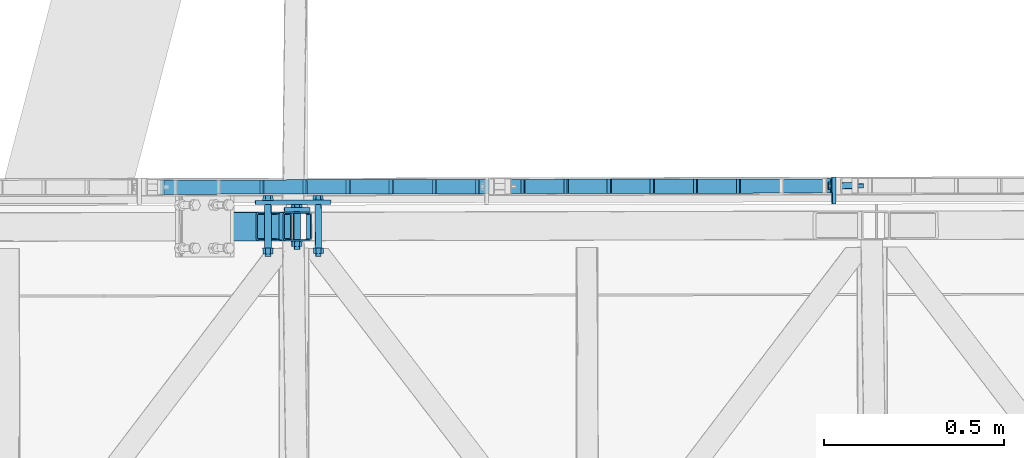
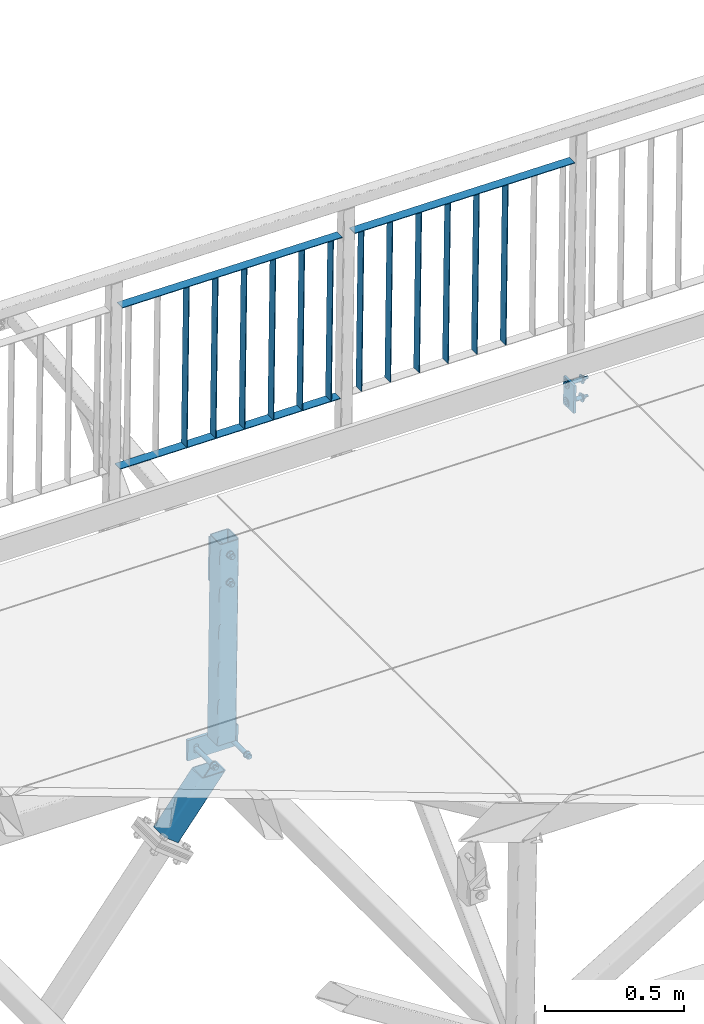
# One storey, part 112 of 169: 20 discrete accessories, 3 mechanical fasteners, 3 elements without a shape of their own.
"""IFC2X3 building model written with IfcOpenShell, lengths in millimetres."""

from ifc_helpers import new_model, si_unit, frame, frame_2d, origin_with_axes, origin_2d_with_axis, place, context, subcontext, project, spatial, polyline, circle_curve, parameter, trimmed, segment, composite_curve, rectangle, hollow_rectangle, circle, outline, extrude, boolean, clip, halfspace, source, transform, mapped, material, type_object, element, aggregate, save


model = new_model("IFC2X3")

# Units and contexts
model_context = context("Model", 3, precision=1e-05, world=origin_with_axes())
body_context = subcontext(model_context, "Body", "Model", "MODEL_VIEW")
ifc_project = project(units=[si_unit("LENGTHUNIT", "METRE", prefix="MILLI"), si_unit("AREAUNIT", "SQUARE_METRE"), si_unit("VOLUMEUNIT", "CUBIC_METRE"), si_unit("MASSUNIT", "GRAM", prefix="KILO"), si_unit("TIMEUNIT", "SECOND"), si_unit("PLANEANGLEUNIT", "RADIAN"), si_unit("SOLIDANGLEUNIT", "STERADIAN"), si_unit("THERMODYNAMICTEMPERATUREUNIT", "DEGREE_CELSIUS"), si_unit("LUMINOUSINTENSITYUNIT", "LUMEN")], contexts=[model_context])

# Site, building, storey
site_placement = place(None, origin_with_axes())
site = spatial("IfcSite", under=ifc_project, at=site_placement, Name="Undefined", CompositionType="ELEMENT")
building_placement = place(site_placement, origin_with_axes())
building = spatial("IfcBuilding", under=site, at=building_placement, Name="Undefined", CompositionType="ELEMENT")
storey_placement = place(building_placement, origin_with_axes())
storey = spatial("IfcBuildingStorey", under=building, at=storey_placement, Name="Undefined", CompositionType="ELEMENT", Elevation=0.0)

# Assembly, discrete accessory
assembly_1_placement = place(storey_placement, origin_with_axes())
assembly_1 = element("IfcElementAssembly", 1, at=assembly_1_placement, inside=storey, Name="Steel Assembly", AssemblyPlace="NOTDEFINED", PredefinedType="RIGID_FRAME")
ifc_material_1 = material(Name="STEEL/S235")
discrete_accessory_type_1 = type_object("IfcDiscreteAccessoryType", Name="BLACHA")
discrete_accessory_1_placement = place(assembly_1_placement, frame((9221.05350484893, 2322.2138730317, 13836.9820282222), z_axis=(0.9999174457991, 0.00186469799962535, -0.0127131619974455), x_axis=(-0.0018648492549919, 0.999998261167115, -4.2996762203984e-08)))
discrete_accessory_1 = element("IfcDiscreteAccessory", 2, at=discrete_accessory_1_placement, type_object=discrete_accessory_type_1, material=ifc_material_1, Name="BLACHA", ObjectType="BL10*120", context=body_context, shape_type="SweptSolid", body=[
    extrude(outline(polyline([(-5.35749222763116e-11, -59.9999999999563), (5.3567816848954e-11, 59.9999999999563), (75.0000002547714, 59.9999999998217), (75.0000002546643, -60.0000000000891), (-5.35749222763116e-11, -59.9999999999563)])), frame((-1.81898926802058e-12, -1.18000176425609e-16, -5.00000000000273), z_axis=(0.0, 0.0, 1.0), x_axis=(1.0, 0.0, 0.0)), (0.0, 0.0, 1.0), 10.0),
])

# Assembly, discrete accessories
assembly_2_placement = place(storey_placement, origin_with_axes())
assembly_2 = element("IfcElementAssembly", 3, at=assembly_2_placement, inside=storey, Name="Steel Assembly", AssemblyPlace="NOTDEFINED", PredefinedType="RIGID_FRAME")
ifc_material_2 = material(Name="STEEL/S355")
discrete_accessory_2_placement = place(assembly_2_placement, frame((7761.40765509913, 2306.49192240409, 13681.9200341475), z_axis=(-0.0018648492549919, 0.999998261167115, -4.2996762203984e-08), x_axis=(-0.999917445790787, -0.00186469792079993, 0.0127131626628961)))
discrete_accessory_2 = element("IfcDiscreteAccessory", 4, at=discrete_accessory_2_placement, type_object=discrete_accessory_type_1, material=ifc_material_2, Name="BLACHA", ObjectType="BL12*190", context=body_context, shape_type="SweptSolid", body=[
    extrude(outline(polyline([(69.9999999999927, -94.99999999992), (8.18545231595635e-11, -95.0), (-8.18545231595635e-11, 95.0000000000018), (69.9999999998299, 95.0000000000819), (69.9999999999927, -94.99999999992)])), frame((-1.81898942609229e-12, -1.81898940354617e-12, -5.99999999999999), z_axis=(0.0, 0.0, 1.0), x_axis=(1.0, 0.0, 0.0)), (0.0, 0.0, 1.0), 12.0),
])
discrete_accessory_3_placement = place(assembly_2_placement, frame((7820.86462321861, 2326.6027996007, 12855.183188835), z_axis=(-0.0018648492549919, 0.999998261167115, -4.2996762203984e-08), x_axis=(-0.999917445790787, -0.00186469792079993, 0.0127131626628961)))
discrete_accessory_3 = element("IfcDiscreteAccessory", 5, at=discrete_accessory_3_placement, type_object=discrete_accessory_type_1, material=ifc_material_2, Name="BLACHA", ObjectType="BL12*90", context=body_context, shape_type="SweptSolid", body=[
    extrude(outline(polyline([(209.999999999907, -44.999999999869), (0.0, -45.0000000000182), (0.0, 45.0000000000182), (209.999999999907, 45.0000000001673), (209.999999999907, -44.999999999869)])), frame((-1.81898942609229e-12, -1.81898940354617e-12, -5.99999999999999), z_axis=(0.0, 0.0, 1.0), x_axis=(1.0, 0.0, 0.0)), (0.0, 0.0, 1.0), 12.0),
])

# Discrete accessory
discrete_accessory_type_2 = type_object("IfcDiscreteAccessoryType", Name="BEAM")
discrete_accessory_4_placement = place(assembly_1_placement, frame((7474.47406711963, 2258.95666222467, 12558.5708792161), z_axis=(-0.784458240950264, -0.00146288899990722, 0.620179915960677), x_axis=(0.620178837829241, 0.00115653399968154, 0.784459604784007)))
discrete_accessory_4 = element("IfcDiscreteAccessory", 6, at=discrete_accessory_4_placement, type_object=discrete_accessory_type_2, material=ifc_material_2, Name="BEAM", ObjectType="K80/4", context=body_context, shape_type="Clipping", body=[
    clip(clip(extrude(hollow_rectangle(XDim=80.0, YDim=80.0, WallThickness=4.0, InnerFilletRadius=4.0, OuterFilletRadius=8.0, at=origin_2d_with_axis()), frame((375.19833107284, -7.01217308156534e-17, 9.09494701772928e-13), z_axis=(-1.0, -3.46944695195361e-18, -1.38777878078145e-17), x_axis=(1.73472347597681e-18, -1.0, 0.0)), (0.0, 0.0, 1.0), 358.7), halfspace(frame((-278.391412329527, -2.59894886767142e-06, 755.671245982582), z_axis=(-0.792280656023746, -4.31759030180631e-08, -0.610156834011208), x_axis=(1.73472347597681e-18, -1.0, 0.0)), True)), halfspace(frame((16.5000003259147, 3.71528585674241e-10, -1000.00000000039), z_axis=(1.0, 0.0, 0.0), x_axis=(1.73472347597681e-18, -1.0, 0.0)), True)),
])

discrete_accessory_5_placement = place(assembly_1_placement, frame((7715.9921345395, 2259.40711202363, 12856.0381884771), z_axis=(-0.999917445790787, -0.00186469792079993, 0.0127131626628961), x_axis=(0.012713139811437, 2.3750999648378e-05, 0.999919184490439)))
discrete_accessory_5 = element("IfcDiscreteAccessory", 7, at=discrete_accessory_5_placement, type_object=discrete_accessory_type_2, material=ifc_material_2, Name="BEAM", ObjectType="K80/4", context=body_context, shape_type="Clipping", body=[
    clip(clip(extrude(hollow_rectangle(XDim=80.0, YDim=80.0, WallThickness=4.0, InnerFilletRadius=4.0, OuterFilletRadius=8.0, at=origin_2d_with_axis()), frame((940.000112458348, 4.54747487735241e-13, 0.0), z_axis=(-1.0, -3.46944695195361e-18, -1.38777878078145e-17), x_axis=(1.73472347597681e-18, -1.0, 0.0)), (0.0, 0.0, 1.0), 880.0), halfspace(frame((940.000112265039, -6.72889655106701e-09, 999.999999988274), z_axis=(-1.0, -3.46944695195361e-18, -1.38777878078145e-17), x_axis=(1.73472347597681e-18, -1.0, 0.0)), True)), halfspace(frame((60.0001122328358, 8.14088707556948e-09, 1000.00000001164), z_axis=(1.0, 0.0, 0.0), x_axis=(0.0, 1.0, 0.0)), True)),
])

aggregate(assembly_1, [discrete_accessory_1, discrete_accessory_4, discrete_accessory_5])

# Assembly, discrete accessories, mechanical fastener
assembly_3_placement = place(storey_placement, origin_with_axes())
assembly_3 = element("IfcElementAssembly", 8, at=assembly_3_placement, inside=storey, Name="Steel Assembly", AssemblyPlace="NOTDEFINED", PredefinedType="RIGID_FRAME")
discrete_accessory_type_3 = type_object("IfcDiscreteAccessoryType", Name="PORĘCZ")
discrete_accessory_6_placement = place(assembly_3_placement, frame((7330.63231506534, 2368.68864560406, 14876.0980896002), z_axis=(-0.012713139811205, -2.37511238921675e-05, -0.999919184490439), x_axis=(0.9999174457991, 0.00186469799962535, -0.0127131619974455)))
discrete_accessory_6 = element("IfcDiscreteAccessory", 9, at=discrete_accessory_6_placement, type_object=discrete_accessory_type_3, material=ifc_material_1, Name="PORĘCZ", ObjectType="BL40*3", context=body_context, shape_type="CSG", body=[
    boolean("DIFFERENCE", boolean("DIFFERENCE", extrude(outline(polyline([(25.4999999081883, 20.0000000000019), (941.194458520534, 20.0000000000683), (941.194458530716, -19.9999999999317), (25.499999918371, -19.9999999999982), (25.4999999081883, 20.0000000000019)])), frame((1.81898940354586e-12, -1.77635442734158e-15, -1.50000000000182), z_axis=(0.0, 0.0, 1.0), x_axis=(1.0, 0.0, 0.0)), (0.0, 0.0, 1.0), 3.0), extrude(rectangle(XDim=51.0, YDim=51.0, at=origin_2d_with_axis()), frame((-5.94487782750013e-08, -4.65977194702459e-09, -139.999999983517), z_axis=(0.0, 0.0, 1.0), x_axis=(1.0, 0.0, 0.0)), (0.0, 0.0, 1.0), 280.0)), extrude(rectangle(XDim=51.0, YDim=51.0, at=origin_2d_with_axis()), frame((966.694458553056, -6.96000839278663e-09, -139.999999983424), z_axis=(0.0, 0.0, 1.0), x_axis=(1.0, 0.0, 0.0)), (0.0, 0.0, 1.0), 280.0)),
])
discrete_accessory_7_placement = place(assembly_3_placement, frame((8297.24696898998, 2370.49123882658, 14863.8083463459), z_axis=(-0.012713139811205, -2.37511238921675e-05, -0.999919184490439), x_axis=(0.9999174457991, 0.00186469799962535, -0.0127131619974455)))
discrete_accessory_7 = element("IfcDiscreteAccessory", 10, at=discrete_accessory_7_placement, type_object=discrete_accessory_type_3, material=ifc_material_1, Name="PORĘCZ", ObjectType="BL40*3", context=body_context, shape_type="CSG", body=[
    boolean("DIFFERENCE", boolean("DIFFERENCE", extrude(outline(polyline([(25.4999999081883, 20.0000000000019), (941.194458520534, 20.0000000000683), (941.194458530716, -19.9999999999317), (25.499999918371, -19.9999999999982), (25.4999999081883, 20.0000000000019)])), frame((1.81898940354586e-12, -1.77635442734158e-15, -1.50000000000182), z_axis=(0.0, 0.0, 1.0), x_axis=(1.0, 0.0, 0.0)), (0.0, 0.0, 1.0), 3.0), extrude(rectangle(XDim=51.0, YDim=51.0, at=origin_2d_with_axis()), frame((-5.94487782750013e-08, -4.65977194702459e-09, -139.999999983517), z_axis=(0.0, 0.0, 1.0), x_axis=(1.0, 0.0, 0.0)), (0.0, 0.0, 1.0), 280.0)), extrude(rectangle(XDim=51.0, YDim=51.0, at=origin_2d_with_axis()), frame((966.694458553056, -6.96000839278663e-09, -139.999999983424), z_axis=(0.0, 0.0, 1.0), x_axis=(1.0, 0.0, 0.0)), (0.0, 0.0, 1.0), 280.0)),
])
discrete_accessory_8_placement = place(assembly_3_placement, frame((7635.79790693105, 2369.2577404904, 15017.2298688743), z_axis=(0.00186484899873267, -0.999998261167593, 4.28757666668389e-08), x_axis=(-0.012713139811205, -2.37511238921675e-05, -0.999919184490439)))
discrete_accessory_8 = element("IfcDiscreteAccessory", 11, at=discrete_accessory_8_placement, type_object=discrete_accessory_type_3, material=ifc_material_1, Name="PORĘCZ", ObjectType="BL40*3", context=body_context, shape_type="Clipping", body=[
    clip(clip(extrude(rectangle(XDim=3.0, YDim=40.0, at=origin_2d_with_axis()), frame((848.500000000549, 1.47191286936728e-15, -8.89750592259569e-16), z_axis=(-1.0, -3.46944695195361e-18, -1.38777878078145e-17), x_axis=(1.73472347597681e-18, -1.0, 0.0)), (0.0, 0.0, 1.0), 702.0), halfspace(frame((848.499999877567, 4.522007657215e-09, 1000.00000000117), z_axis=(-1.0, -3.46944695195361e-18, -1.38777878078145e-17), x_axis=(1.73472347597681e-18, -1.0, 0.0)), True)), halfspace(frame((146.499999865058, 4.97311702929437e-09, 1000.00000000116), z_axis=(1.0, 0.0, 0.0), x_axis=(0.0, 1.0, 0.0)), True)),
])
discrete_accessory_9_placement = place(assembly_3_placement, frame((7755.78800042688, 2369.48150425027, 15015.7042894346), z_axis=(0.00186484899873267, -0.999998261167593, 4.28757666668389e-08), x_axis=(-0.012713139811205, -2.37511238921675e-05, -0.999919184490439)))
discrete_accessory_9 = element("IfcDiscreteAccessory", 12, at=discrete_accessory_9_placement, type_object=discrete_accessory_type_3, material=ifc_material_1, Name="PORĘCZ", ObjectType="BL40*3", context=body_context, shape_type="Clipping", body=[
    clip(clip(extrude(rectangle(XDim=3.0, YDim=40.0, at=origin_2d_with_axis()), frame((848.500000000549, 1.47191286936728e-15, -8.89750592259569e-16), z_axis=(-1.0, -3.46944695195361e-18, -1.38777878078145e-17), x_axis=(1.73472347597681e-18, -1.0, 0.0)), (0.0, 0.0, 1.0), 702.0), halfspace(frame((848.499999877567, 4.522007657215e-09, 1000.00000000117), z_axis=(-1.0, -3.46944695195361e-18, -1.38777878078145e-17), x_axis=(1.73472347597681e-18, -1.0, 0.0)), True)), halfspace(frame((146.499999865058, 4.97311702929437e-09, 1000.00000000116), z_axis=(1.0, 0.0, 0.0), x_axis=(0.0, 1.0, 0.0)), True)),
])
discrete_accessory_10_placement = place(assembly_3_placement, frame((7875.77809392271, 2369.70526801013, 15014.178709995), z_axis=(0.00186484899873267, -0.999998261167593, 4.28757666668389e-08), x_axis=(-0.012713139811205, -2.37511238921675e-05, -0.999919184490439)))
discrete_accessory_10 = element("IfcDiscreteAccessory", 13, at=discrete_accessory_10_placement, type_object=discrete_accessory_type_3, material=ifc_material_1, Name="PORĘCZ", ObjectType="BL40*3", context=body_context, shape_type="Clipping", body=[
    clip(clip(extrude(rectangle(XDim=3.0, YDim=40.0, at=origin_2d_with_axis()), frame((848.500000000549, 1.47191286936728e-15, -8.89750592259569e-16), z_axis=(-1.0, -3.46944695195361e-18, -1.38777878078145e-17), x_axis=(1.73472347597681e-18, -1.0, 0.0)), (0.0, 0.0, 1.0), 702.0), halfspace(frame((848.499999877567, 4.522007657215e-09, 1000.00000000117), z_axis=(-1.0, -3.46944695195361e-18, -1.38777878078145e-17), x_axis=(1.73472347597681e-18, -1.0, 0.0)), True)), halfspace(frame((146.499999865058, 4.97311702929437e-09, 1000.00000000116), z_axis=(1.0, 0.0, 0.0), x_axis=(0.0, 1.0, 0.0)), True)),
])
discrete_accessory_11_placement = place(assembly_3_placement, frame((7995.76818741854, 2369.92903177, 15012.6531305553), z_axis=(0.00186484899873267, -0.999998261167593, 4.28757666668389e-08), x_axis=(-0.012713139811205, -2.37511238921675e-05, -0.999919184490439)))
discrete_accessory_11 = element("IfcDiscreteAccessory", 14, at=discrete_accessory_11_placement, type_object=discrete_accessory_type_3, material=ifc_material_1, Name="PORĘCZ", ObjectType="BL40*3", context=body_context, shape_type="Clipping", body=[
    clip(clip(extrude(rectangle(XDim=3.0, YDim=40.0, at=origin_2d_with_axis()), frame((848.500000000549, 1.47191286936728e-15, -8.89750592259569e-16), z_axis=(-1.0, -3.46944695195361e-18, -1.38777878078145e-17), x_axis=(1.73472347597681e-18, -1.0, 0.0)), (0.0, 0.0, 1.0), 702.0), halfspace(frame((848.499999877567, 4.522007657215e-09, 1000.00000000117), z_axis=(-1.0, -3.46944695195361e-18, -1.38777878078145e-17), x_axis=(1.73472347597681e-18, -1.0, 0.0)), True)), halfspace(frame((146.499999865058, 4.97311702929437e-09, 1000.00000000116), z_axis=(1.0, 0.0, 0.0), x_axis=(0.0, 1.0, 0.0)), True)),
])
discrete_accessory_12_placement = place(assembly_3_placement, frame((8115.75828091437, 2370.15279552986, 15011.1275511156), z_axis=(0.00186484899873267, -0.999998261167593, 4.28757666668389e-08), x_axis=(-0.012713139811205, -2.37511238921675e-05, -0.999919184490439)))
discrete_accessory_12 = element("IfcDiscreteAccessory", 15, at=discrete_accessory_12_placement, type_object=discrete_accessory_type_3, material=ifc_material_1, Name="PORĘCZ", ObjectType="BL40*3", context=body_context, shape_type="Clipping", body=[
    clip(clip(extrude(rectangle(XDim=3.0, YDim=40.0, at=origin_2d_with_axis()), frame((848.500000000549, 1.47191286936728e-15, -8.89750592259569e-16), z_axis=(-1.0, -3.46944695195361e-18, -1.38777878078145e-17), x_axis=(1.73472347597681e-18, -1.0, 0.0)), (0.0, 0.0, 1.0), 702.0), halfspace(frame((848.499999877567, 4.522007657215e-09, 1000.00000000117), z_axis=(-1.0, -3.46944695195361e-18, -1.38777878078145e-17), x_axis=(1.73472347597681e-18, -1.0, 0.0)), True)), halfspace(frame((146.499999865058, 4.97311702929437e-09, 1000.00000000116), z_axis=(1.0, 0.0, 0.0), x_axis=(0.0, 1.0, 0.0)), True)),
])
discrete_accessory_13_placement = place(assembly_3_placement, frame((8235.7483744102, 2370.37655928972, 15009.6019716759), z_axis=(0.00186484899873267, -0.999998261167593, 4.28757666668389e-08), x_axis=(-0.012713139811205, -2.37511238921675e-05, -0.999919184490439)))
discrete_accessory_13 = element("IfcDiscreteAccessory", 16, at=discrete_accessory_13_placement, type_object=discrete_accessory_type_3, material=ifc_material_1, Name="PORĘCZ", ObjectType="BL40*3", context=body_context, shape_type="Clipping", body=[
    clip(clip(extrude(rectangle(XDim=3.0, YDim=40.0, at=origin_2d_with_axis()), frame((848.500000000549, 1.47191286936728e-15, -8.89750592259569e-16), z_axis=(-1.0, -3.46944695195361e-18, -1.38777878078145e-17), x_axis=(1.73472347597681e-18, -1.0, 0.0)), (0.0, 0.0, 1.0), 702.0), halfspace(frame((848.499999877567, 4.522007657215e-09, 1000.00000000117), z_axis=(-1.0, -3.46944695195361e-18, -1.38777878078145e-17), x_axis=(1.73472347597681e-18, -1.0, 0.0)), True)), halfspace(frame((146.499999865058, 4.97311702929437e-09, 1000.00000000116), z_axis=(1.0, 0.0, 0.0), x_axis=(0.0, 1.0, 0.0)), True)),
])
discrete_accessory_14_placement = place(assembly_3_placement, frame((8362.43237386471, 2370.61280619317, 15007.9912844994), z_axis=(0.00186484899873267, -0.999998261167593, 4.28757666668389e-08), x_axis=(-0.012713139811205, -2.37511238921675e-05, -0.999919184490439)))
discrete_accessory_14 = element("IfcDiscreteAccessory", 17, at=discrete_accessory_14_placement, type_object=discrete_accessory_type_3, material=ifc_material_1, Name="PORĘCZ", ObjectType="BL40*3", context=body_context, shape_type="Clipping", body=[
    clip(clip(extrude(rectangle(XDim=3.0, YDim=40.0, at=origin_2d_with_axis()), frame((848.500000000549, 1.47191286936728e-15, -8.89750592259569e-16), z_axis=(-1.0, -3.46944695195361e-18, -1.38777878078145e-17), x_axis=(1.73472347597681e-18, -1.0, 0.0)), (0.0, 0.0, 1.0), 702.0), halfspace(frame((848.499999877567, 4.522007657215e-09, 1000.00000000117), z_axis=(-1.0, -3.46944695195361e-18, -1.38777878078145e-17), x_axis=(1.73472347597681e-18, -1.0, 0.0)), True)), halfspace(frame((146.499999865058, 4.97311702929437e-09, 1000.00000000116), z_axis=(1.0, 0.0, 0.0), x_axis=(0.0, 1.0, 0.0)), True)),
])
discrete_accessory_15_placement = place(assembly_3_placement, frame((8482.42246736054, 2370.83656995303, 15006.4657050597), z_axis=(0.00186484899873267, -0.999998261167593, 4.28757666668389e-08), x_axis=(-0.012713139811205, -2.37511238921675e-05, -0.999919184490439)))
discrete_accessory_15 = element("IfcDiscreteAccessory", 18, at=discrete_accessory_15_placement, type_object=discrete_accessory_type_3, material=ifc_material_1, Name="PORĘCZ", ObjectType="BL40*3", context=body_context, shape_type="Clipping", body=[
    clip(clip(extrude(rectangle(XDim=3.0, YDim=40.0, at=origin_2d_with_axis()), frame((848.500000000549, 1.47191286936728e-15, -8.89750592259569e-16), z_axis=(-1.0, -3.46944695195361e-18, -1.38777878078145e-17), x_axis=(1.73472347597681e-18, -1.0, 0.0)), (0.0, 0.0, 1.0), 702.0), halfspace(frame((848.499999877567, 4.522007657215e-09, 1000.00000000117), z_axis=(-1.0, -3.46944695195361e-18, -1.38777878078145e-17), x_axis=(1.73472347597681e-18, -1.0, 0.0)), True)), halfspace(frame((146.499999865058, 4.97311702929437e-09, 1000.00000000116), z_axis=(1.0, 0.0, 0.0), x_axis=(0.0, 1.0, 0.0)), True)),
])
discrete_accessory_16_placement = place(assembly_3_placement, frame((8602.41256085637, 2371.06033371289, 15004.94012562), z_axis=(0.00186484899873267, -0.999998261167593, 4.28757666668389e-08), x_axis=(-0.012713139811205, -2.37511238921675e-05, -0.999919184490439)))
discrete_accessory_16 = element("IfcDiscreteAccessory", 19, at=discrete_accessory_16_placement, type_object=discrete_accessory_type_3, material=ifc_material_1, Name="PORĘCZ", ObjectType="BL40*3", context=body_context, shape_type="Clipping", body=[
    clip(clip(extrude(rectangle(XDim=3.0, YDim=40.0, at=origin_2d_with_axis()), frame((848.500000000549, 1.47191286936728e-15, -8.89750592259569e-16), z_axis=(-1.0, -3.46944695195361e-18, -1.38777878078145e-17), x_axis=(1.73472347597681e-18, -1.0, 0.0)), (0.0, 0.0, 1.0), 702.0), halfspace(frame((848.499999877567, 4.522007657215e-09, 1000.00000000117), z_axis=(-1.0, -3.46944695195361e-18, -1.38777878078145e-17), x_axis=(1.73472347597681e-18, -1.0, 0.0)), True)), halfspace(frame((146.499999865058, 4.97311702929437e-09, 1000.00000000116), z_axis=(1.0, 0.0, 0.0), x_axis=(0.0, 1.0, 0.0)), True)),
])
discrete_accessory_17_placement = place(assembly_3_placement, frame((8722.4026543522, 2371.28409747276, 15003.4145461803), z_axis=(0.00186484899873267, -0.999998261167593, 4.28757666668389e-08), x_axis=(-0.012713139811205, -2.37511238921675e-05, -0.999919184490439)))
discrete_accessory_17 = element("IfcDiscreteAccessory", 20, at=discrete_accessory_17_placement, type_object=discrete_accessory_type_3, material=ifc_material_1, Name="PORĘCZ", ObjectType="BL40*3", context=body_context, shape_type="Clipping", body=[
    clip(clip(extrude(rectangle(XDim=3.0, YDim=40.0, at=origin_2d_with_axis()), frame((848.500000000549, 1.47191286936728e-15, -8.89750592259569e-16), z_axis=(-1.0, -3.46944695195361e-18, -1.38777878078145e-17), x_axis=(1.73472347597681e-18, -1.0, 0.0)), (0.0, 0.0, 1.0), 702.0), halfspace(frame((848.499999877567, 4.522007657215e-09, 1000.00000000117), z_axis=(-1.0, -3.46944695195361e-18, -1.38777878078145e-17), x_axis=(1.73472347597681e-18, -1.0, 0.0)), True)), halfspace(frame((146.499999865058, 4.97311702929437e-09, 1000.00000000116), z_axis=(1.0, 0.0, 0.0), x_axis=(0.0, 1.0, 0.0)), True)),
])
discrete_accessory_18_placement = place(assembly_3_placement, frame((8842.39274784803, 2371.50786123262, 15001.8889667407), z_axis=(0.00186484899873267, -0.999998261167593, 4.28757666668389e-08), x_axis=(-0.012713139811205, -2.37511238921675e-05, -0.999919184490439)))
discrete_accessory_18 = element("IfcDiscreteAccessory", 21, at=discrete_accessory_18_placement, type_object=discrete_accessory_type_3, material=ifc_material_1, Name="PORĘCZ", ObjectType="BL40*3", context=body_context, shape_type="Clipping", body=[
    clip(clip(extrude(rectangle(XDim=3.0, YDim=40.0, at=origin_2d_with_axis()), frame((848.500000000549, 1.47191286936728e-15, -8.89750592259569e-16), z_axis=(-1.0, -3.46944695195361e-18, -1.38777878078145e-17), x_axis=(1.73472347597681e-18, -1.0, 0.0)), (0.0, 0.0, 1.0), 702.0), halfspace(frame((848.499999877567, 4.522007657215e-09, 1000.00000000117), z_axis=(-1.0, -3.46944695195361e-18, -1.38777878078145e-17), x_axis=(1.73472347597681e-18, -1.0, 0.0)), True)), halfspace(frame((146.499999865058, 4.97311702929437e-09, 1000.00000000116), z_axis=(1.0, 0.0, 0.0), x_axis=(0.0, 1.0, 0.0)), True)),
])
discrete_accessory_19_placement = place(assembly_3_placement, frame((8962.38284134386, 2371.73162499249, 15000.363387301), z_axis=(0.00186484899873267, -0.999998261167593, 4.28757666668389e-08), x_axis=(-0.012713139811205, -2.37511238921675e-05, -0.999919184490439)))
discrete_accessory_19 = element("IfcDiscreteAccessory", 22, at=discrete_accessory_19_placement, type_object=discrete_accessory_type_3, material=ifc_material_1, Name="PORĘCZ", ObjectType="BL40*3", context=body_context, shape_type="Clipping", body=[
    clip(clip(extrude(rectangle(XDim=3.0, YDim=40.0, at=origin_2d_with_axis()), frame((848.500000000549, 1.47191286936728e-15, -8.89750592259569e-16), z_axis=(-1.0, -3.46944695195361e-18, -1.38777878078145e-17), x_axis=(1.73472347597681e-18, -1.0, 0.0)), (0.0, 0.0, 1.0), 702.0), halfspace(frame((848.499999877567, 4.522007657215e-09, 1000.00000000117), z_axis=(-1.0, -3.46944695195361e-18, -1.38777878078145e-17), x_axis=(1.73472347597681e-18, -1.0, 0.0)), True)), halfspace(frame((146.499999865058, 4.97311702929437e-09, 1000.00000000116), z_axis=(1.0, 0.0, 0.0), x_axis=(0.0, 1.0, 0.0)), True)),
])
discrete_accessory_20_placement = place(assembly_3_placement, frame((7321.66955149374, 2368.67190106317, 14171.1550645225), z_axis=(-0.012713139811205, -2.37511238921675e-05, -0.999919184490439), x_axis=(0.9999174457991, 0.00186469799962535, -0.0127131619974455)))
discrete_accessory_20 = element("IfcDiscreteAccessory", 23, at=discrete_accessory_20_placement, type_object=discrete_accessory_type_3, material=ifc_material_1, Name="PORĘCZ", ObjectType="BL40*3", context=body_context, shape_type="CSG", body=[
    boolean("DIFFERENCE", boolean("DIFFERENCE", extrude(outline(polyline([(25.4999999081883, 20.0000000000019), (941.194458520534, 20.0000000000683), (941.194458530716, -19.9999999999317), (25.499999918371, -19.9999999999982), (25.4999999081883, 20.0000000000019)])), frame((1.81898940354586e-12, -1.77635442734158e-15, -1.50000000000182), z_axis=(0.0, 0.0, 1.0), x_axis=(1.0, 0.0, 0.0)), (0.0, 0.0, 1.0), 3.0), extrude(rectangle(XDim=51.0, YDim=51.0, at=origin_2d_with_axis()), frame((-5.94487782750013e-08, -4.65977194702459e-09, -139.999999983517), z_axis=(0.0, 0.0, 1.0), x_axis=(1.0, 0.0, 0.0)), (0.0, 0.0, 1.0), 280.0)), extrude(rectangle(XDim=51.0, YDim=51.0, at=origin_2d_with_axis()), frame((966.694458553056, -6.96000839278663e-09, -139.999999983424), z_axis=(0.0, 0.0, 1.0), x_axis=(1.0, 0.0, 0.0)), (0.0, 0.0, 1.0), 280.0)),
])
ifc_material_3 = material(Name="Undefined")
discrete_accessory_type_4 = type_object("IfcDiscreteAccessoryType", Name="Bolt assembly")
shared_shape_1 = source(origin_with_axes(), body_context, "Body", "SweptSolid", [
    extrude(circle(Radius=9.0, at=origin_2d_with_axis()), frame((0.0, -4.90000000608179, 0.0), z_axis=(0.0, 1.0, 0.0), x_axis=(1.0, 0.0, 0.0)), (0.0, 0.0, 1.0), 10.0),
    extrude(circle(Radius=9.0, at=origin_2d_with_axis()), frame((0.0, 4.89999999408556, 0.0), z_axis=(0.0, 1.0, 0.0), x_axis=(1.0, 0.0, 0.0)), (0.0, 0.0, 1.0), 50.1),
    extrude(outline(polyline([(10.39230484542, 0.0), (5.19615242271, 9.00000000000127), (-5.19615242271, 9.00000000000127), (-10.39230484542, 0.0), (-5.19615242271, -9.00000000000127), (5.19615242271, -9.00000000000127), (10.39230484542, 0.0)])), frame((0.0, -15.5000000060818, 0.0), z_axis=(0.0, 1.0, 0.0), x_axis=(1.0, 0.0, 0.0)), (0.0, 0.0, 1.0), 7.5),
    extrude(circle(Radius=6.0, at=origin_2d_with_axis()), frame((0.0, -8.00000000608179, 0.0), z_axis=(0.0, 1.0, 0.0), x_axis=(1.0, 0.0, 0.0)), (0.0, 0.0, 1.0), 90.0),
    extrude(circle(Radius=18.5, at=origin_2d_with_axis()), frame((0.0, -8.00000000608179, 0.0), z_axis=(0.0, 1.0, 0.0), x_axis=(1.0, 0.0, 0.0)), (0.0, 0.0, 1.0), 3.0),
    extrude(circle(Radius=18.5, at=origin_2d_with_axis()), frame((0.0, 54.9999999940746, 0.0), z_axis=(0.0, 1.0, 0.0), x_axis=(1.0, 0.0, 0.0)), (0.0, 0.0, 1.0), 3.0),
    extrude(outline(polyline([(10.96965511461, 0.0), (5.484827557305, 9.50000000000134), (-5.484827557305, 9.50000000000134), (-10.96965511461, 0.0), (-5.484827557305, -9.50000000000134), (5.484827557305, -9.50000000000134), (10.96965511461, 0.0)])), frame((0.0, 57.9999999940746, 0.0), z_axis=(0.0, 1.0, 0.0), x_axis=(1.0, 0.0, 0.0)), (0.0, 0.0, 1.0), 10.0),
])
mechanical_fastener_1_placement = place(assembly_3_placement, frame((9220.96661897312, 2372.21379576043, 13837.4819856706), z_axis=(0.012712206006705, 0.000523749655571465, 0.999919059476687), x_axis=(0.00187120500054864, -0.999998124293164, 0.00050000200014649)))
mechanical_fastener_1 = element("IfcMechanicalFastener", 24, at=mechanical_fastener_1_placement, type_object=discrete_accessory_type_4, material=ifc_material_3, Name="Bolt assembly", NominalDiameter=12.0, NominalLength=90.0, context=body_context, shape_type="MappedRepresentation", body=[
    mapped(shared_shape_1, transform((-1.15463194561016e-14, 5.45696821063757e-11, -39.9999999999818))),
    mapped(shared_shape_1, transform((8.88178419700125e-15, -5.54791768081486e-11, 39.99999999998))),
])
aggregate(assembly_3, [mechanical_fastener_1, discrete_accessory_6, discrete_accessory_7, discrete_accessory_8, discrete_accessory_9, discrete_accessory_10, discrete_accessory_11, discrete_accessory_12, discrete_accessory_13, discrete_accessory_14, discrete_accessory_15, discrete_accessory_16, discrete_accessory_17, discrete_accessory_18, discrete_accessory_19, discrete_accessory_20])

# Mechanical fastener
shared_shape_2 = source(origin_with_axes(), body_context, "Body", "SweptSolid", [
    extrude(circle(Radius=9.5, at=origin_2d_with_axis()), frame((0.0, 4.39999998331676, 0.0), z_axis=(0.0, 1.0, 0.0), x_axis=(1.0, 0.0, 0.0)), (0.0, 0.0, 1.0), 80.1),
    extrude(outline(composite_curve([segment(polyline([(9.5, 10.0), (9.5, -10.0)]), True, "CONTINUOUS"), segment(trimmed(circle_curve(frame_2d((0.0, -10.0), x_axis=(1.0, 0.0)), 9.5), [parameter(0.0)], [parameter(3.14159265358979)], False, "PARAMETER"), True, "CONTINUOUS"), segment(polyline([(-9.5, -10.0), (-9.5, 10.0)]), True, "CONTINUOUS"), segment(trimmed(circle_curve(frame_2d((0.0, 10.0), x_axis=(-1.0, 0.0)), 9.5), [parameter(0.0)], [parameter(3.14159265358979)], False, "PARAMETER"), True, "DISCONTINUOUS")], self_intersect=False)), frame((0.0, -8.39999975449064, 0.0), z_axis=(0.0, 1.0, 0.0), x_axis=(1.0, 0.0, 0.0)), (0.0, 0.0, 1.0), 12.0),
    extrude(outline(polyline([(13.85640646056, 0.0), (6.92820323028, 12.0000000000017), (-6.92820323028, 12.0000000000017), (-13.85640646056, 0.0), (-6.92820323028, -12.0000000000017), (6.92820323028, -12.0000000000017), (13.85640646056, 0.0)])), frame((0.0, -21.4999999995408, 0.0), z_axis=(0.0, 1.0, 0.0), x_axis=(1.0, 0.0, 0.0)), (0.0, 0.0, 1.0), 10.0),
    extrude(circle(Radius=8.0, at=origin_2d_with_axis()), frame((0.0, -11.4999999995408, 0.0), z_axis=(0.0, 1.0, 0.0), x_axis=(1.0, 0.0, 0.0)), (0.0, 0.0, 1.0), 120.0),
    extrude(circle(Radius=15.0, at=origin_2d_with_axis()), frame((0.0, -11.4999999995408, 0.0), z_axis=(0.0, 1.0, 0.0), x_axis=(1.0, 0.0, 0.0)), (0.0, 0.0, 1.0), 3.0),
    extrude(circle(Radius=15.0, at=origin_2d_with_axis()), frame((0.0, 84.4999999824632, 0.0), z_axis=(0.0, 1.0, 0.0), x_axis=(1.0, 0.0, 0.0)), (0.0, 0.0, 1.0), 3.0),
    extrude(outline(polyline([(13.85640646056, 0.0), (6.92820323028, 12.0000000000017), (-6.92820323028, 12.0000000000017), (-13.85640646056, 0.0), (-6.92820323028, -12.0000000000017), (6.92820323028, -12.0000000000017), (13.85640646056, 0.0)])), frame((0.0, 87.4999999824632, 0.0), z_axis=(0.0, 1.0, 0.0), x_axis=(1.0, 0.0, 0.0)), (0.0, 0.0, 1.0), 13.0),
])
mechanical_fastener_2_placement = place(assembly_2_placement, frame((7726.41520662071, 2303.92666232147, 13682.3649949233), z_axis=(-0.012713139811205, -2.37511238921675e-05, -0.999919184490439), x_axis=(0.9999174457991, 0.00186469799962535, -0.0127131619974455)))
mechanical_fastener_2 = element("IfcMechanicalFastener", 25, at=mechanical_fastener_2_placement, type_object=discrete_accessory_type_4, material=ifc_material_3, Name="Bolt assembly", NominalDiameter=16.0, NominalLength=120.0, context=body_context, shape_type="MappedRepresentation", body=[
    mapped(shared_shape_2, transform((1.18234311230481e-11, 9.20081788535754e-11, -60.0000000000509))),
    mapped(shared_shape_2, transform((-1.2732925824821e-11, -9.20223897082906e-11, 60.0000000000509))),
])

shared_shape_3 = source(origin_with_axes(), body_context, "Body", "SweptSolid", [
    extrude(circle(Radius=9.5, at=origin_2d_with_axis()), frame((0.0, 4.39999998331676, 0.0), z_axis=(0.0, 1.0, 0.0), x_axis=(1.0, 0.0, 0.0)), (0.0, 0.0, 1.0), 120.1),
    extrude(outline(composite_curve([segment(polyline([(9.5, 10.0), (9.5, -10.0)]), True, "CONTINUOUS"), segment(trimmed(circle_curve(frame_2d((0.0, -10.0), x_axis=(1.0, 0.0)), 9.5), [parameter(0.0)], [parameter(3.14159265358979)], False, "PARAMETER"), True, "CONTINUOUS"), segment(polyline([(-9.5, -10.0), (-9.5, 10.0)]), True, "CONTINUOUS"), segment(trimmed(circle_curve(frame_2d((0.0, 10.0), x_axis=(-1.0, 0.0)), 9.5), [parameter(0.0)], [parameter(3.14159265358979)], False, "PARAMETER"), True, "DISCONTINUOUS")], self_intersect=False)), frame((0.0, -8.39999975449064, 0.0), z_axis=(0.0, 1.0, 0.0), x_axis=(1.0, 0.0, 0.0)), (0.0, 0.0, 1.0), 12.0),
    extrude(outline(polyline([(13.85640646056, 0.0), (6.92820323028, 12.0000000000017), (-6.92820323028, 12.0000000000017), (-13.85640646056, 0.0), (-6.92820323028, -12.0000000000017), (6.92820323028, -12.0000000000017), (13.85640646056, 0.0)])), frame((0.0, -21.4999999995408, 0.0), z_axis=(0.0, 1.0, 0.0), x_axis=(1.0, 0.0, 0.0)), (0.0, 0.0, 1.0), 10.0),
    extrude(circle(Radius=8.0, at=origin_2d_with_axis()), frame((0.0, -11.4999999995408, 0.0), z_axis=(0.0, 1.0, 0.0), x_axis=(1.0, 0.0, 0.0)), (0.0, 0.0, 1.0), 160.0),
    extrude(circle(Radius=15.0, at=origin_2d_with_axis()), frame((0.0, -11.4999999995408, 0.0), z_axis=(0.0, 1.0, 0.0), x_axis=(1.0, 0.0, 0.0)), (0.0, 0.0, 1.0), 3.0),
    extrude(circle(Radius=15.0, at=origin_2d_with_axis()), frame((0.0, 124.499999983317, 0.0), z_axis=(0.0, 1.0, 0.0), x_axis=(1.0, 0.0, 0.0)), (0.0, 0.0, 1.0), 3.0),
    extrude(outline(polyline([(13.85640646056, 0.0), (6.92820323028, 12.0000000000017), (-6.92820323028, 12.0000000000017), (-13.85640646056, 0.0), (-6.92820323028, -12.0000000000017), (6.92820323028, -12.0000000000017), (13.85640646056, 0.0)])), frame((0.0, 127.499999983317, 0.0), z_axis=(0.0, 1.0, 0.0), x_axis=(1.0, 0.0, 0.0)), (0.0, 0.0, 1.0), 13.0),
])
mechanical_fastener_3_placement = place(assembly_2_placement, frame((7645.88373232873, 2323.77648179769, 12857.4079922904), z_axis=(-0.012713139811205, -2.37511238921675e-05, -0.999919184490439), x_axis=(0.9999174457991, 0.00186469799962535, -0.0127131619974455)))
mechanical_fastener_3 = element("IfcMechanicalFastener", 26, at=mechanical_fastener_3_placement, type_object=discrete_accessory_type_4, material=ifc_material_3, Name="Bolt assembly", NominalDiameter=16.0, NominalLength=160.0, context=body_context, shape_type="MappedRepresentation", body=[
    mapped(shared_shape_3, transform((0.0, 0.0, 0.0))),
    mapped(shared_shape_3, transform((139.999999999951, -4.15525391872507e-11, -3.09228198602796e-11))),
])

aggregate(assembly_2, [mechanical_fastener_2, discrete_accessory_2, mechanical_fastener_3, discrete_accessory_3])

save(model, "model.ifc")
